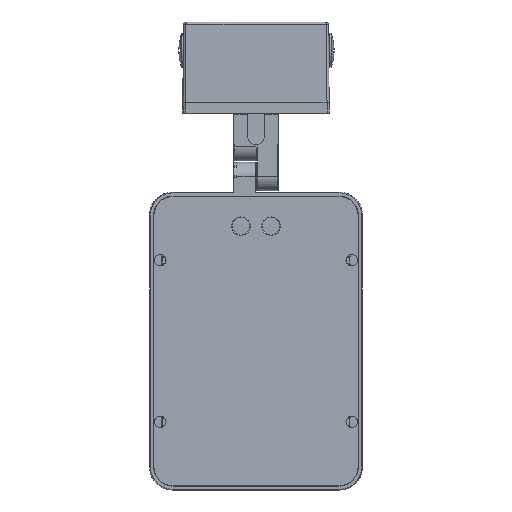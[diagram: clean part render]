
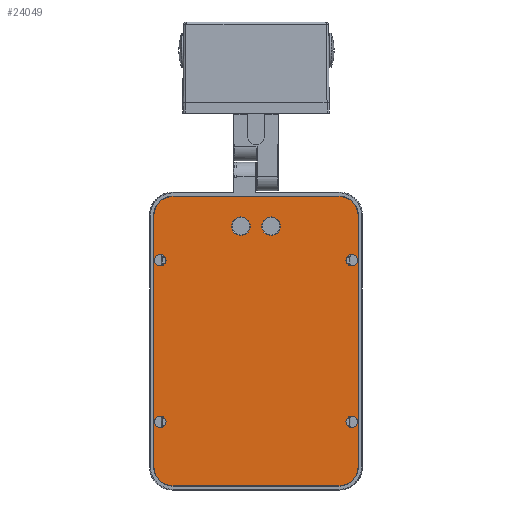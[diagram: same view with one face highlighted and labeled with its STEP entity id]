
A CAD part, front view. The second image highlights one B-rep face of the part: STEP entity #24049.
In plain terms, the highlighted planar face has unit normal (0, -1, 0).
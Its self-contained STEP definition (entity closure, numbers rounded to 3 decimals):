
#10828=CARTESIAN_POINT('',(67.5,0.5,57.));
#10829=DIRECTION('',(0.,-1.,0.));
#10830=DIRECTION('',(1.,0.,0.));
#10831=AXIS2_PLACEMENT_3D('',#10828,#10829,#10830);
#10833=CARTESIAN_POINT('',(67.5,0.5,57.));
#10834=DIRECTION('',(0.,-1.,0.));
#10835=DIRECTION('',(-1.,0.,0.));
#10836=AXIS2_PLACEMENT_3D('',#10833,#10834,#10835);
#10838=CARTESIAN_POINT('',(-67.5,0.5,-57.));
#10839=DIRECTION('',(0.,-1.,0.));
#10840=DIRECTION('',(-1.,0.,0.));
#10841=AXIS2_PLACEMENT_3D('',#10838,#10839,#10840);
#10843=CARTESIAN_POINT('',(-67.5,0.5,-57.));
#10844=DIRECTION('',(0.,-1.,0.));
#10845=DIRECTION('',(1.,0.,0.));
#10846=AXIS2_PLACEMENT_3D('',#10843,#10844,#10845);
#10848=CARTESIAN_POINT('',(-67.5,0.5,57.));
#10849=DIRECTION('',(0.,1.,0.));
#10850=DIRECTION('',(-1.,0.,0.));
#10851=AXIS2_PLACEMENT_3D('',#10848,#10849,#10850);
#10853=CARTESIAN_POINT('',(-67.5,0.5,57.));
#10854=DIRECTION('',(0.,-1.,0.));
#10855=DIRECTION('',(-1.,0.,0.));
#10856=AXIS2_PLACEMENT_3D('',#10853,#10854,#10855);
#10858=CARTESIAN_POINT('',(67.5,0.5,-57.));
#10859=DIRECTION('',(0.,-1.,0.));
#10860=DIRECTION('',(-1.,0.,0.));
#10861=AXIS2_PLACEMENT_3D('',#10858,#10859,#10860);
#10863=CARTESIAN_POINT('',(67.5,0.5,-57.));
#10864=DIRECTION('',(0.,-1.,0.));
#10865=DIRECTION('',(1.,0.,0.));
#10866=AXIS2_PLACEMENT_3D('',#10863,#10864,#10865);
#10868=CARTESIAN_POINT('',(58.5,0.5,-88.5));
#10869=DIRECTION('',(0.,1.,0.));
#10870=DIRECTION('',(1.,0.,0.));
#10871=AXIS2_PLACEMENT_3D('',#10868,#10869,#10870);
#10873=DIRECTION('',(-1.,0.,0.));
#10874=VECTOR('',#10873,117.);
#10875=CARTESIAN_POINT('',(58.5,0.5,-102.));
#10876=LINE('',#10875,#10874);
#10877=CARTESIAN_POINT('',(-58.5,0.5,-88.5));
#10878=DIRECTION('',(0.,1.,0.));
#10879=DIRECTION('',(0.,0.,-1.));
#10880=AXIS2_PLACEMENT_3D('',#10877,#10878,#10879);
#10882=DIRECTION('',(0.,0.,1.));
#10883=VECTOR('',#10882,177.);
#10884=CARTESIAN_POINT('',(-72.,0.5,-88.5));
#10885=LINE('',#10884,#10883);
#10886=CARTESIAN_POINT('',(-58.5,0.5,88.5));
#10887=DIRECTION('',(0.,1.,0.));
#10888=DIRECTION('',(-1.,0.,0.));
#10889=AXIS2_PLACEMENT_3D('',#10886,#10887,#10888);
#10891=DIRECTION('',(1.,0.,0.));
#10892=VECTOR('',#10891,117.);
#10893=CARTESIAN_POINT('',(-58.5,0.5,102.));
#10894=LINE('',#10893,#10892);
#10895=CARTESIAN_POINT('',(58.5,0.5,88.5));
#10896=DIRECTION('',(0.,1.,0.));
#10897=DIRECTION('',(0.,0.,1.));
#10898=AXIS2_PLACEMENT_3D('',#10895,#10896,#10897);
#10900=DIRECTION('',(0.,0.,-1.));
#10901=VECTOR('',#10900,177.);
#10902=CARTESIAN_POINT('',(72.,0.5,88.5));
#10903=LINE('',#10902,#10901);
#10904=CARTESIAN_POINT('',(-10.65,0.5,81.));
#10905=DIRECTION('',(0.,1.,0.));
#10906=DIRECTION('',(-1.,0.,0.));
#10907=AXIS2_PLACEMENT_3D('',#10904,#10905,#10906);
#10909=CARTESIAN_POINT('',(-10.65,0.5,81.));
#10910=DIRECTION('',(0.,1.,0.));
#10911=DIRECTION('',(1.,0.,0.));
#10912=AXIS2_PLACEMENT_3D('',#10909,#10910,#10911);
#10914=CARTESIAN_POINT('',(10.65,0.5,81.));
#10915=DIRECTION('',(0.,1.,0.));
#10916=DIRECTION('',(-1.,0.,0.));
#10917=AXIS2_PLACEMENT_3D('',#10914,#10915,#10916);
#10919=CARTESIAN_POINT('',(10.65,0.5,81.));
#10920=DIRECTION('',(0.,1.,0.));
#10921=DIRECTION('',(1.,0.,0.));
#10922=AXIS2_PLACEMENT_3D('',#10919,#10920,#10921);
#21260=CARTESIAN_POINT('',(71.55,0.5,57.));
#21261=CARTESIAN_POINT('',(63.45,0.5,57.));
#21262=VERTEX_POINT('',#21260);
#21263=VERTEX_POINT('',#21261);
#21264=CARTESIAN_POINT('',(58.5,0.5,-102.));
#21265=CARTESIAN_POINT('',(72.,0.5,-88.5));
#21266=VERTEX_POINT('',#21264);
#21267=VERTEX_POINT('',#21265);
#21268=CARTESIAN_POINT('',(72.,0.5,88.5));
#21269=VERTEX_POINT('',#21268);
#21270=CARTESIAN_POINT('',(58.5,0.5,102.));
#21271=VERTEX_POINT('',#21270);
#21272=CARTESIAN_POINT('',(-58.5,0.5,102.));
#21273=VERTEX_POINT('',#21272);
#21274=CARTESIAN_POINT('',(-72.,0.5,88.5));
#21275=VERTEX_POINT('',#21274);
#21276=CARTESIAN_POINT('',(-72.,0.5,-88.5));
#21277=VERTEX_POINT('',#21276);
#21278=CARTESIAN_POINT('',(-58.5,0.5,-102.));
#21279=VERTEX_POINT('',#21278);
#21296=CARTESIAN_POINT('',(-71.55,0.5,-57.));
#21297=CARTESIAN_POINT('',(-63.45,0.5,-57.));
#21298=VERTEX_POINT('',#21296);
#21299=VERTEX_POINT('',#21297);
#21304=CARTESIAN_POINT('',(-71.55,0.5,57.));
#21305=VERTEX_POINT('',#21304);
#21306=CARTESIAN_POINT('',(-63.45,0.5,57.));
#21307=VERTEX_POINT('',#21306);
#21308=CARTESIAN_POINT('',(71.55,0.5,-57.));
#21309=CARTESIAN_POINT('',(63.45,0.5,-57.));
#21310=VERTEX_POINT('',#21308);
#21311=VERTEX_POINT('',#21309);
#21602=CARTESIAN_POINT('',(-17.2,0.5,81.));
#21603=CARTESIAN_POINT('',(-4.1,0.5,81.));
#21604=VERTEX_POINT('',#21602);
#21605=VERTEX_POINT('',#21603);
#21610=CARTESIAN_POINT('',(4.1,0.5,81.));
#21611=CARTESIAN_POINT('',(17.2,0.5,81.));
#21612=VERTEX_POINT('',#21610);
#21613=VERTEX_POINT('',#21611);
#23990=CARTESIAN_POINT('',(0.,0.5,0.));
#23991=DIRECTION('',(0.,1.,0.));
#23992=DIRECTION('',(1.,0.,0.));
#23993=AXIS2_PLACEMENT_3D('',#23990,#23991,#23992);
#23994=PLANE('',#23993);
#23996=ORIENTED_EDGE('',*,*,#23995,.T.);
#23998=ORIENTED_EDGE('',*,*,#23997,.T.);
#24000=ORIENTED_EDGE('',*,*,#23999,.T.);
#24002=ORIENTED_EDGE('',*,*,#24001,.T.);
#24004=ORIENTED_EDGE('',*,*,#24003,.T.);
#24006=ORIENTED_EDGE('',*,*,#24005,.T.);
#24008=ORIENTED_EDGE('',*,*,#24007,.T.);
#24010=ORIENTED_EDGE('',*,*,#24009,.T.);
#24011=EDGE_LOOP('',(#23996,#23998,#24000,#24002,#24004,#24006,#24008,#24010));
#24012=FACE_OUTER_BOUND('',#24011,.F.);
#24014=ORIENTED_EDGE('',*,*,#24013,.T.);
#24016=ORIENTED_EDGE('',*,*,#24015,.T.);
#24017=EDGE_LOOP('',(#24014,#24016));
#24018=FACE_BOUND('',#24017,.F.);
#24020=ORIENTED_EDGE('',*,*,#24019,.F.);
#24022=ORIENTED_EDGE('',*,*,#24021,.T.);
#24023=EDGE_LOOP('',(#24020,#24022));
#24024=FACE_BOUND('',#24023,.F.);
#24026=ORIENTED_EDGE('',*,*,#24025,.T.);
#24028=ORIENTED_EDGE('',*,*,#24027,.T.);
#24029=EDGE_LOOP('',(#24026,#24028));
#24030=FACE_BOUND('',#24029,.F.);
#24032=ORIENTED_EDGE('',*,*,#24031,.T.);
#24034=ORIENTED_EDGE('',*,*,#24033,.T.);
#24035=EDGE_LOOP('',(#24032,#24034));
#24036=FACE_BOUND('',#24035,.F.);
#24038=ORIENTED_EDGE('',*,*,#24037,.F.);
#24040=ORIENTED_EDGE('',*,*,#24039,.F.);
#24041=EDGE_LOOP('',(#24038,#24040));
#24042=FACE_BOUND('',#24041,.F.);
#24044=ORIENTED_EDGE('',*,*,#24043,.F.);
#24046=ORIENTED_EDGE('',*,*,#24045,.F.);
#24047=EDGE_LOOP('',(#24044,#24046));
#24048=FACE_BOUND('',#24047,.F.);
#24049=ADVANCED_FACE('',(#24012,#24018,#24024,#24030,#24036,#24042,#24048),
#23994,.F.);
#10832=CIRCLE('',#10831,4.05);
#10837=CIRCLE('',#10836,4.05);
#10842=CIRCLE('',#10841,4.05);
#10847=CIRCLE('',#10846,4.05);
#10852=CIRCLE('',#10851,4.05);
#10857=CIRCLE('',#10856,4.05);
#10862=CIRCLE('',#10861,4.05);
#10867=CIRCLE('',#10866,4.05);
#10872=CIRCLE('',#10871,13.5);
#10881=CIRCLE('',#10880,13.5);
#10890=CIRCLE('',#10889,13.5);
#10899=CIRCLE('',#10898,13.5);
#10908=CIRCLE('',#10907,6.55);
#10913=CIRCLE('',#10912,6.55);
#10918=CIRCLE('',#10917,6.55);
#10923=CIRCLE('',#10922,6.55);
#23995=EDGE_CURVE('',#21267,#21266,#10872,.T.);
#23997=EDGE_CURVE('',#21266,#21279,#10876,.T.);
#23999=EDGE_CURVE('',#21279,#21277,#10881,.T.);
#24001=EDGE_CURVE('',#21277,#21275,#10885,.T.);
#24003=EDGE_CURVE('',#21275,#21273,#10890,.T.);
#24005=EDGE_CURVE('',#21273,#21271,#10894,.T.);
#24007=EDGE_CURVE('',#21271,#21269,#10899,.T.);
#24009=EDGE_CURVE('',#21269,#21267,#10903,.T.);
#24013=EDGE_CURVE('',#21298,#21299,#10842,.T.);
#24015=EDGE_CURVE('',#21299,#21298,#10847,.T.);
#24019=EDGE_CURVE('',#21305,#21307,#10852,.T.);
#24021=EDGE_CURVE('',#21305,#21307,#10857,.T.);
#24025=EDGE_CURVE('',#21311,#21310,#10862,.T.);
#24027=EDGE_CURVE('',#21310,#21311,#10867,.T.);
#24031=EDGE_CURVE('',#21262,#21263,#10832,.T.);
#24033=EDGE_CURVE('',#21263,#21262,#10837,.T.);
#24037=EDGE_CURVE('',#21604,#21605,#10908,.T.);
#24039=EDGE_CURVE('',#21605,#21604,#10913,.T.);
#24043=EDGE_CURVE('',#21612,#21613,#10918,.T.);
#24045=EDGE_CURVE('',#21613,#21612,#10923,.T.);
